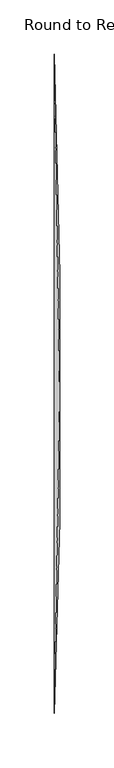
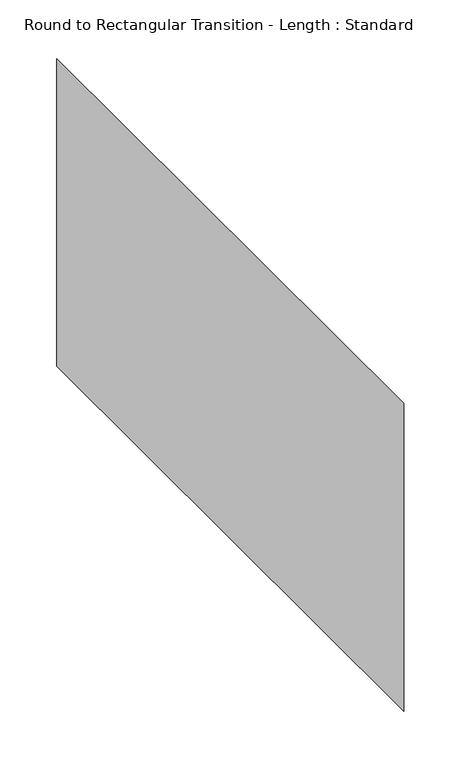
"""IFC4 building model written with IfcOpenShell, lengths in millimetres: duct fitting geometry, Round to Rectangular Transition - Length : Standard."""

from ifc_helpers import new_model, si_unit, frame, origin, place, context, project, spatial, circle_curve, source, transform, mapped, element, save
from ifc_brep_helpers import plane_surface, spline_surface, advanced_brep


def round_to_rectangular_transition_length_standard_5e19dc24(model_context):
    return source(origin(), model_context, "Body", "AdvancedBrep", [
        advanced_brep(
        [(5.0601563, -12.7, 127.0), (5.0601563, -127.0, 12.7), (5.0601563, -12.7, -101.6), (5.0601563, 101.6, 12.7), (0.0, -304.8, 165.1), (0.0, 304.8, 165.1), (0.0, 304.8, -165.1), (0.0, -304.8, -165.1)],
        [
            (0, 1, circle_curve(frame((5.0601563, -12.7, 12.7), z_axis=(1.0, 0.0, 0.0), x_axis=(0.0, 1.0, 0.0)), 114.3)),
            (1, 2, circle_curve(frame((5.0601563, -12.7, 12.7), z_axis=(1.0, 0.0, 0.0), x_axis=(0.0, 1.0, 0.0)), 114.3)),
            (2, 3, circle_curve(frame((5.0601563, -12.7, 12.7), z_axis=(1.0, 0.0, 0.0), x_axis=(0.0, 1.0, 0.0)), 114.3)),
            (3, 0, circle_curve(frame((5.0601563, -12.7, 12.7), z_axis=(1.0, 0.0, 0.0), x_axis=(0.0, 1.0, 0.0)), 114.3)),
            (4, 5),
            (5, 6),
            (6, 7),
            (7, 4),
            (0, 4),
            (4, 1),
            (7, 1),
            (7, 2),
            (6, 2),
            (6, 3),
            (5, 3),
            (5, 0),
        ],
        [
            plane_surface(frame((5.0601563, -12.7, 12.7), z_axis=(1.0, 0.0, 0.0), x_axis=(0.0, 0.0, -1.0))),
            plane_surface(frame((0.0, 0.0, 0.0), z_axis=(-1.0, 0.0, 0.0), x_axis=(0.0, 0.0, -1.0))),
            spline_surface(2, 1, [[(0.0, -304.8, 165.1), (5.0601563, -12.7, 127.0)], [(0.0, -304.8, 165.1), (5.0601563, -127.0, 127.0)], [(0.0, -304.8, 165.1), (5.0601563, -127.0, 12.7)]], [3, 3], [2, 2], [0.0, 1.0], [0.0, 1.0], weights=[[1.0, 1.0], [0.7071067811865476, 0.7071067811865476], [1.0, 1.0]]),
            plane_surface(frame((0.0, -304.8, 0.0), z_axis=(0.9995952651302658, -0.02844830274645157, 0.0), x_axis=(0.0, 0.0, -1.0))),
            spline_surface(2, 1, [[(0.0, -304.8, -165.1), (5.0601563, -127.0, 12.7)], [(0.0, -304.8, -165.1), (5.0601563, -127.0, -101.6)], [(0.0, -304.8, -165.1), (5.0601563, -12.7, -101.6)]], [3, 3], [2, 2], [0.0, 1.0], [0.0, 1.0], weights=[[1.0, 1.0], [0.7071067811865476, 0.7071067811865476], [1.0, 1.0]]),
            plane_surface(frame((0.0, 0.0, -165.1), z_axis=(0.9968399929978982, 0.0, -0.07943568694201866), x_axis=(0.0, 1.0, 0.0))),
            spline_surface(2, 1, [[(0.0, 304.8, -165.1), (5.0601563, -12.7, -101.6)], [(0.0, 304.8, -165.1), (5.0601563, 101.6, -101.6)], [(0.0, 304.8, -165.1), (5.0601563, 101.6, 12.7)]], [3, 3], [2, 2], [0.0, 1.0], [0.0, 1.0], weights=[[1.0, 1.0], [0.7071067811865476, 0.7071067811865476], [1.0, 1.0]]),
            plane_surface(frame((0.0, 304.8, 0.0), z_axis=(0.9996900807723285, 0.02489462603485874, 0.0), x_axis=(0.0, 0.0, 1.0))),
            spline_surface(2, 1, [[(0.0, 304.8, 165.1), (5.0601563, 101.6, 12.7)], [(0.0, 304.8, 165.1), (5.0601563, 101.6, 127.0)], [(0.0, 304.8, 165.1), (5.0601563, -12.7, 127.0)]], [3, 3], [2, 2], [0.0, 1.0], [0.0, 1.0], weights=[[1.0, 1.0], [0.7071067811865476, 0.7071067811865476], [1.0, 1.0]]),
            plane_surface(frame((0.0, 0.0, 165.1), z_axis=(0.9912954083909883, 0.0, 0.13165642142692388), x_axis=(0.0, -1.0, 0.0))),
        ],
        [
            (0, [[1, 2, 3, 4]]),
            (1, [[5, 6, 7, 8]]),
            (2, [[-1, 9, 10]]),
            (3, [[-8, 11, -10]]),
            (4, [[-2, -11, 12]]),
            (5, [[-7, 13, -12]]),
            (6, [[-3, -13, 14]]),
            (7, [[-6, 15, -14]]),
            (8, [[-4, -15, 16]]),
            (9, [[-5, -9, -16]]),
        ],
    ),
    ])


if __name__ == "__main__":
    model = new_model("IFC4")
    model_context = context("Model", 3, world=origin())
    ifc_project = project(units=[si_unit("LENGTHUNIT", "METRE", prefix="MILLI")], contexts=[model_context])
    site = spatial("IfcSite", under=ifc_project)
    building = spatial("IfcBuilding", under=site)
    placement = place(None, origin())
    round_to_rectangular_transition_length_standard_shape = round_to_rectangular_transition_length_standard_5e19dc24(model_context)
    element("IfcDuctFitting", 1, ObjectType="Round to Rectangular Transition - Length : Standard", at=placement, inside=building, context=model_context, shape_type="MappedRepresentation", body=[
        mapped(round_to_rectangular_transition_length_standard_shape, transform((0.0, 0.0, 0.0), x_axis=(1.0, 0.0, 0.0), y_axis=(0.0, 1.0, 0.0), z_axis=(0.0, 0.0, 1.0))),
    ])
    save(model, "model.ifc")
